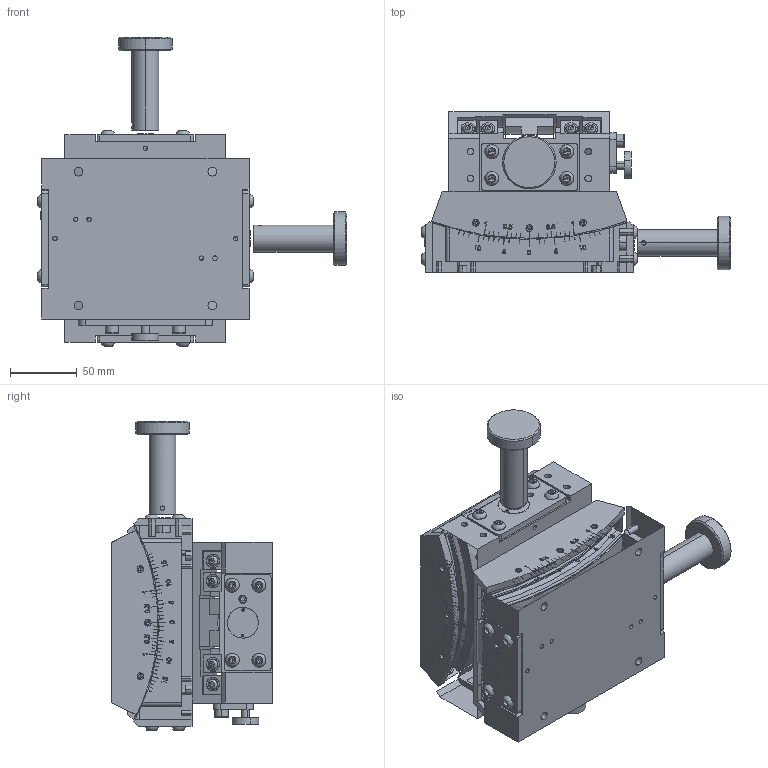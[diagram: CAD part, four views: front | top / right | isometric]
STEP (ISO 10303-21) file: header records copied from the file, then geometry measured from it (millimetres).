
FILE_DESCRIPTION (( 'STEP AP203' ), '1' );
FILE_NAME ('PT-SD311+PT-SD312郪磁怢酗忒謫.STEP', '2025-03-25T08:44:03', ( '' ), ( '' ), 'SwSTEP 2.0', 'SolidWorks 2023', '' );
FILE_SCHEMA (( 'CONFIG_CONTROL_DESIGN' ));
Length unit declared in the file: millimetre
Products named in the file (6): 手轮; PT-SD312长手轮; PT-SD312长手轮1; PT-SD311长手轮; PT-SD311+PT-SD312组合台长手轮; PT-SD311长手轮-底座
Assembly tree (6 placements, depth 3):
  PT-SD311+PT-SD312组合台长手轮
    PT-SD311长手轮
      PT-SD311长手轮-底座
      手轮
    PT-SD312长手轮
      PT-SD312长手轮1
      手轮
Bounding box: 231.3 x 120 x 231.3 mm (x, y, z)
Volume: 3480.9 mm3; surface area: 320333.5 mm2
Topology: 2 solids, 298 shells, 1596 faces, 4798 edges, 3526 vertices
Faces by surface type: plane 1010, cylinder 401, cone 67, bspline 62, sphere 32, torus 24
Entity records: 94546 total; most frequent: CARTESIAN_POINT 53785, ORIENTED_EDGE 7704, DIRECTION 7217, EDGE_CURVE 4697, VERTEX_POINT 3487, AXIS2_PLACEMENT_3D 2420, LINE 2377, VECTOR 2377
